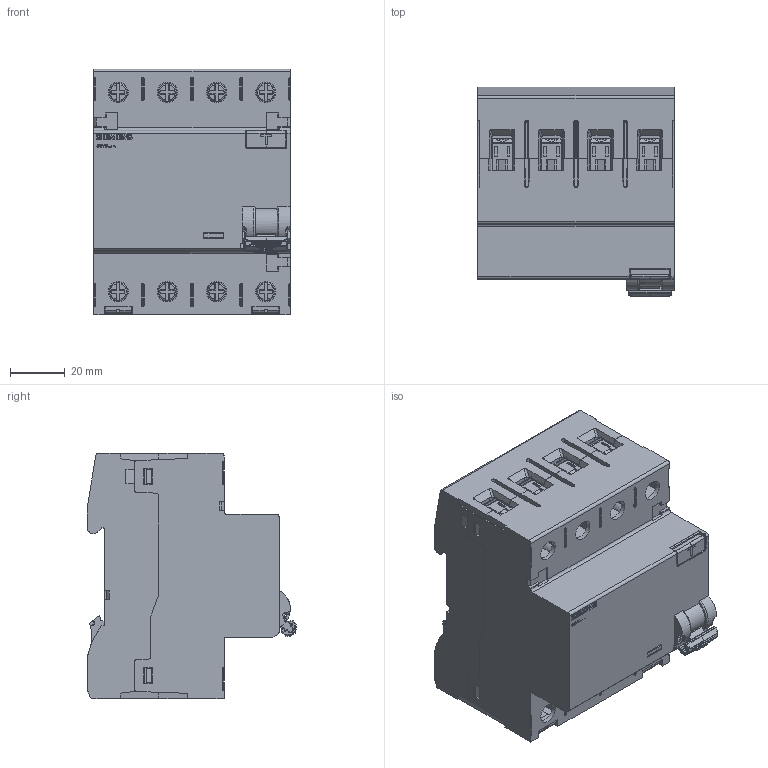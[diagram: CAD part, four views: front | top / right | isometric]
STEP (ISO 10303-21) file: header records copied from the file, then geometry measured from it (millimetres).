
FILE_DESCRIPTION(/* description */ ('STEP AP214'),/* implementation_level */ '2;1');
FILE_NAME(/* name */ 'M_5SV33466KL_SIEMENS',/* time_stamp */ '2024-02-22T14:29:00+01:00',/* author */ ('License CC BY-ND 4.0'),/* organization */ ('CADENAS'),/* preprocessor_version */ 'ST-DEVELOPER v19.3',/* originating_system */ 'PARTsolutions',/* authorisation */ ' ');
FILE_SCHEMA (('AUTOMOTIVE_DESIGN {1 0 10303 214 3 1 1}'));
Products named in the file (5): 5SV33466KL; 5SV33466KL_PART1; 5SV33466KL_PART2; 5SV33466KL_PART3; 5SV33466KL_PART4
Assembly tree (4 placements, depth 2):
  5SV33466KL
    5SV33466KL_PART1
    5SV33466KL_PART2
    5SV33466KL_PART3
    5SV33466KL_PART4
Bounding box: 71.8 x 76.7 x 89.8 mm (x, y, z)
Volume: 343196.5 mm3; surface area: 53605.6 mm2
Topology: 4 solids, 4 shells, 2081 faces, 5765 edges, 3713 vertices
Faces by surface type: plane 1372, cylinder 556, torus 59, bspline 33, sphere 32, cone 29
Full cylindrical faces by diameter (mm): 1.5 x2, 4.4 x1, 4.5 x1, 7 x1, 7.4 x16, 12.2 x1
Entity records: 83017 total; most frequent: CARTESIAN_POINT 15694, ORIENTED_EDGE 11374, DIRECTION 10837, EDGE_CURVE 5687, LINE 4137, VECTOR 4137, VERTEX_POINT 3700, AXIS2_PLACEMENT_3D 3350
